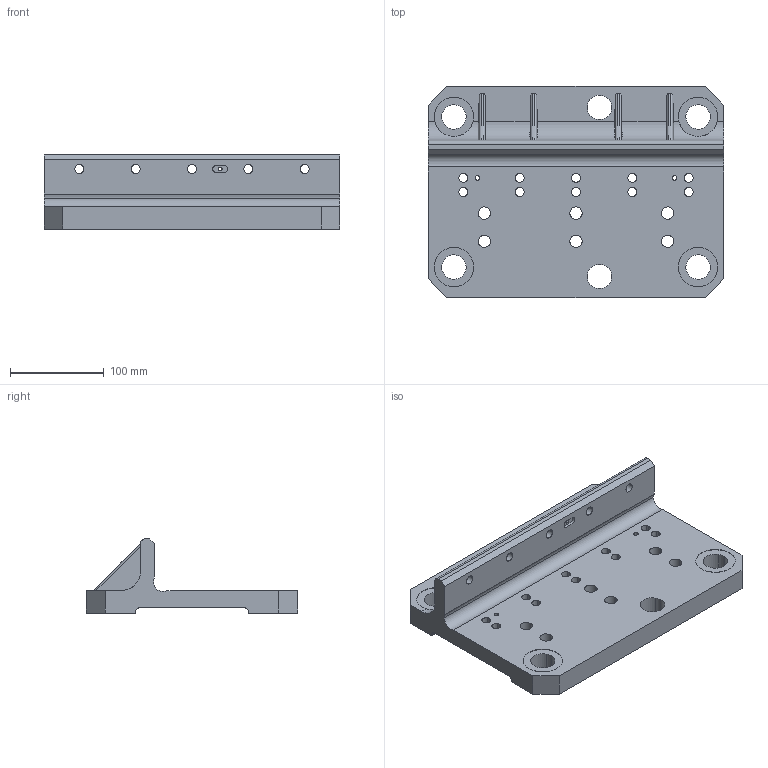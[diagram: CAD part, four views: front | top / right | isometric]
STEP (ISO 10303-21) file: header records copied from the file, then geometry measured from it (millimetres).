
FILE_DESCRIPTION(('STEP AP214'),'1');
FILE_NAME('EGT270_1702476_GUSSTEIL.CATPart.stp','2015-09-14T13:15:44',('3D-Tool'),(' '),'Spatial InterOp 3D',' ',' ');
FILE_SCHEMA(('automotive_design'));
Length unit declared in the file: millimetre
Products named in the file (1): EGT270_1702476_GUSSTEIL|PartBody|Solid.13
Bounding box: 315 x 225 x 79 mm (x, y, z)
Volume: 1628502.7 mm3; surface area: 222559 mm2
Topology: 1 solids, 1 shells, 306 faces, 882 edges, 590 vertices
Faces by surface type: cylinder 236, plane 54, cone 16
Entity records: 13300 total; most frequent: CARTESIAN_POINT 2266, DIRECTION 1924, ORIENTED_EDGE 1764, EDGE_CURVE 882, AXIS2_PLACEMENT_3D 777, VERTEX_POINT 590, CIRCLE 470, EDGE_LOOP 378
